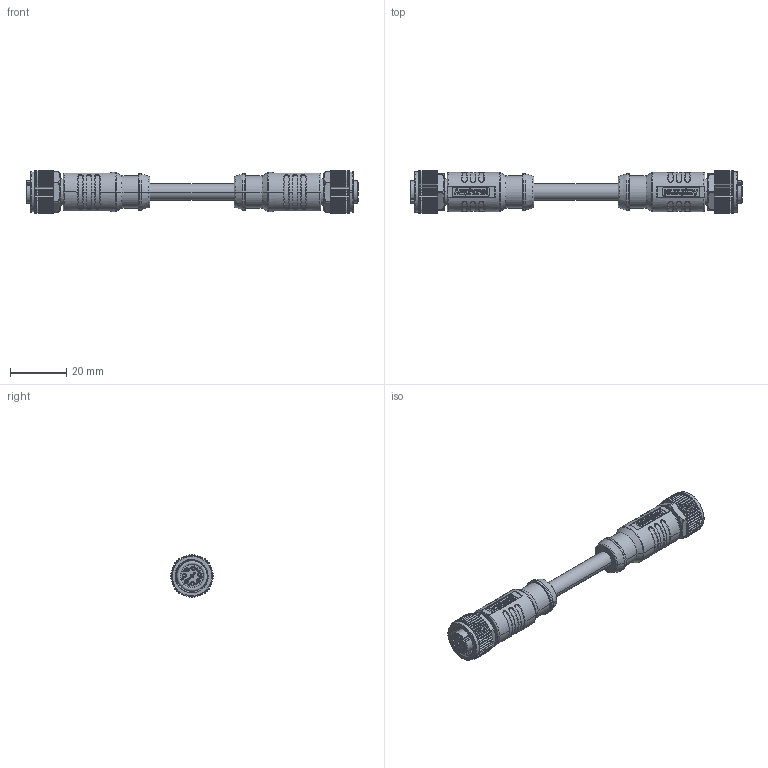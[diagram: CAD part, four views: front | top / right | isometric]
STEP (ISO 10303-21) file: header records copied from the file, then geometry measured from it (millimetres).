
FILE_DESCRIPTION((''),'2;1');
FILE_NAME('MSAS08FL-SASFL-SBXXX','2021-03-19T',('L170024'),(''),'PRO/ENGINEER BY PARAMETRIC TECHNOLOGY CORPORATION, 2017170','PRO/ENGINEER BY PARAMETRIC TECHNOLOGY CORPORATION, 2017170','');
FILE_SCHEMA(('CONFIG_CONTROL_DESIGN'));
Products named in the file (1): MSAS08FL-SASFL-SBXXX
Bounding box: 118.4 x 15.3 x 15.3 mm (x, y, z)
Volume: 12142.3 mm3; surface area: 8151.9 mm2
Topology: 1 solids, 1 shells, 1900 faces, 4964 edges, 3174 vertices
Faces by surface type: plane 832, cylinder 386, extrusion 282, bspline 152, cone 136, torus 84, sphere 28
Entity records: 99152 total; most frequent: CARTESIAN_POINT 39818, ORIENTED_EDGE 9896, DIRECTION 8480, EDGE_CURVE 4948, VERTEX_POINT 3174, VECTOR 2944, AXIS2_PLACEMENT_3D 2768, LINE 2662
